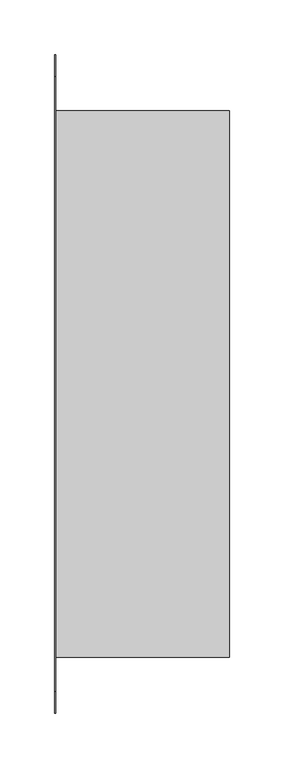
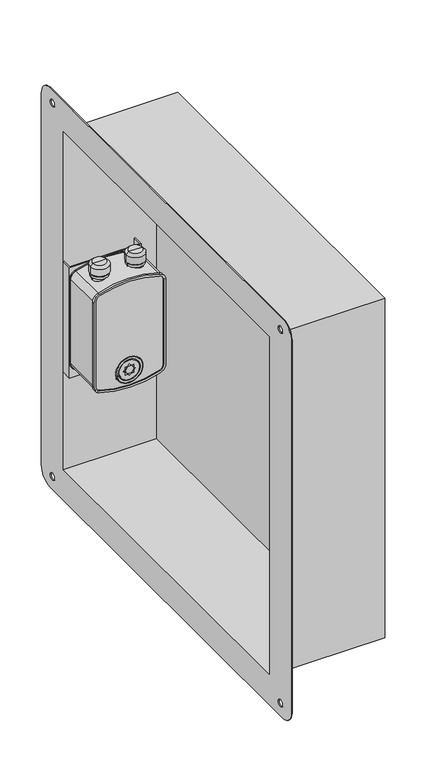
"""IFC4 building model written with IfcOpenShell, lengths in millimetres: damper geometry, СВ_КлапанПротивопожарный_КДМ-2М-3_НЗ_СтеновойПрямоугольный_СВОК : КДМ-3_Привод FS."""

from ifc_helpers import new_model, si_unit, point, frame, frame_2d, origin, place, context, project, spatial, polyline, circle_curve, trimmed, segment, composite_curve, outline, extrude, source, transform, mapped, element, save
from ifc_brep_helpers import plane_surface, cylinder_surface, revolved_surface, advanced_brep


def damper_ea2bbee0(model_context):
    return source(origin(), model_context, "Body", "SolidModel", [
        extrude(outline(polyline([(-78.8298911, 248.8), (-78.8298911, 235.0), (18.8, 235.0), (18.8, 248.8), (20.0, 248.8), (20.0, 233.8), (-80.0298911, 233.8), (-80.0298911, 248.8), (-78.8298911, 248.8)])), frame((0.0, 0.0, -105.0), z_axis=(0.0, 0.0, 1.0), x_axis=(1.0, 0.0, 0.0)), (0.0, 0.0, 1.0), 162.5),
        extrude(outline(composite_curve([segment(polyline([(41.1260091, -80.0298911), (-83.1260091, -80.0298911)]), True, "CONTINUOUS"), segment(trimmed(circle_curve(frame_2d((-83.1260091, -69.0)), 11.0298911), [point((-83.1260091, -80.0298911))], [point((-93.5819866, -72.5115572))], False, "CARTESIAN"), True, "CONTINUOUS"), segment(trimmed(circle_curve(frame_2d((33.0, -30.0)), 133.5298911), [point((-93.5819866, -72.5115572))], [point((-93.5819866, 12.5115572))], False, "CARTESIAN"), True, "CONTINUOUS"), segment(trimmed(circle_curve(frame_2d((-83.1260091, 9.0)), 11.0298911), [point((-93.5819866, 12.5115572))], [point((-83.1260091, 20.0298911))], False, "CARTESIAN"), True, "CONTINUOUS"), segment(polyline([(-83.1260091, 20.0298911), (41.1260091, 20.0298911)]), True, "CONTINUOUS"), segment(trimmed(circle_curve(frame_2d((41.1260091, 9.0)), 11.0298911), [point((41.1260091, 20.0298911))], [point((51.5819866, 12.5115572))], False, "CARTESIAN"), True, "CONTINUOUS"), segment(trimmed(circle_curve(frame_2d((-75.0, -30.0)), 133.5298911), [point((51.5819866, 12.5115572))], [point((51.5819866, -72.5115572))], False, "CARTESIAN"), True, "CONTINUOUS"), segment(trimmed(circle_curve(frame_2d((41.1260091, -69.0)), 11.0298911), [point((51.5819866, -72.5115572))], [point((41.1260091, -80.0298911))], False, "CARTESIAN"), True, "CONTINUOUS")], self_intersect=False), holes=[composite_curve([segment(trimmed(circle_curve(frame_2d((33.0, -30.0)), 132.5), [point((-92.6056834, 12.1836735))], [point((-92.6056834, -72.1836735))], True, "CARTESIAN"), True, "CONTINUOUS"), segment(trimmed(circle_curve(frame_2d((-83.1260091, -69.0)), 10.0), [point((-92.6056834, -72.1836735))], [point((-83.1260091, -79.0))], True, "CARTESIAN"), True, "CONTINUOUS"), segment(polyline([(-83.1260091, -79.0), (41.1260091, -79.0)]), True, "CONTINUOUS"), segment(trimmed(circle_curve(frame_2d((41.1260091, -69.0)), 10.0), [point((41.1260091, -79.0))], [point((50.6056834, -72.1836735))], True, "CARTESIAN"), True, "CONTINUOUS"), segment(trimmed(circle_curve(frame_2d((-75.0, -30.0)), 132.5), [point((50.6056834, -72.1836735))], [point((50.6056834, 12.1836735))], True, "CARTESIAN"), True, "CONTINUOUS"), segment(trimmed(circle_curve(frame_2d((41.1260091, 9.0)), 10.0), [point((50.6056834, 12.1836735))], [point((41.1260091, 19.0))], True, "CARTESIAN"), True, "CONTINUOUS"), segment(polyline([(41.1260091, 19.0), (-83.1260091, 19.0)]), True, "CONTINUOUS"), segment(trimmed(circle_curve(frame_2d((-83.1260091, 9.0)), 10.0), [point((-83.1260091, 19.0))], [point((-92.6056834, 12.1836735))], True, "CARTESIAN"), True, "CONTINUOUS")], self_intersect=False)]), frame((0.0, 231.8, 0.0), z_axis=(0.0, 1.0, 0.0), x_axis=(0.0, 0.0, 1.0)), (0.0, 0.0, 1.0), 2.0),
        advanced_brep(
        [(-72.1836735, 177.8, -92.6056834), (-79.0, 177.8, -83.1260091), (-79.0, 175.8, -83.1260091), (-72.1836735, 175.8, -92.6056834), (-72.5115572, 174.8, -93.5819866), (-80.0298911, 174.8, -83.1260091), (-80.0298911, 177.8, -83.1260091), (-72.5115572, 177.8, -93.5819866), (-71.5469388, 175.8, -90.7097485), (-77.0, 175.8, -83.1260091), (-77.0, 174.8, -83.1260091), (-71.5469388, 174.8, -90.7097485), (12.1836735, 177.8, -92.6056834), (12.1836735, 175.8, -92.6056834), (12.5115572, 174.8, -93.5819866), (12.5115572, 177.8, -93.5819866), (11.5469388, 175.8, -90.7097485), (11.5469388, 174.8, -90.7097485), (19.0, 177.8, -83.1260091), (19.0, 175.8, -83.1260091), (20.0298911, 174.8, -83.1260091), (20.0298911, 177.8, -83.1260091), (17.0, 175.8, -83.1260091), (17.0, 174.8, -83.1260091), (19.0, 175.8, 41.1260091), (19.0, 177.8, 41.1260091), (20.0298911, 177.8, 41.1260091), (20.0298911, 174.8, 41.1260091), (17.0, 174.8, 41.1260091), (17.0, 175.8, 41.1260091), (12.1836735, 177.8, 50.6056834), (12.1836735, 175.8, 50.6056834), (12.5115572, 174.8, 51.5819866), (12.5115572, 177.8, 51.5819866), (11.5469388, 175.8, 48.7097485), (11.5469388, 174.8, 48.7097485), (-72.1836735, 177.8, 50.6056834), (-72.1836735, 175.8, 50.6056834), (-72.5115572, 174.8, 51.5819866), (-72.5115572, 177.8, 51.5819866), (-71.5469388, 175.8, 48.7097485), (-71.5469388, 174.8, 48.7097485), (-79.0, 177.8, 41.1260091), (-79.0, 175.8, 41.1260091), (-80.0298911, 174.8, 41.1260091), (-80.0298911, 177.8, 41.1260091), (-77.0, 175.8, 41.1260091), (-77.0, 174.8, 41.1260091)],
        [
            (0, 1, circle_curve(frame((-69.0, 177.8, -83.1260091), z_axis=(0.0, 1.0, 0.0), x_axis=(-1.0, 0.0, 0.0)), 10.0)),
            (1, 2),
            (2, 3, circle_curve(frame((-69.0, 175.8, -83.1260091), z_axis=(0.0, -1.0, 0.0), x_axis=(-1.0, 0.0, 0.0)), 10.0)),
            (3, 0),
            (4, 5, circle_curve(frame((-69.0, 174.8, -83.1260091), z_axis=(0.0, 1.0, 0.0), x_axis=(-1.0, 0.0, 0.0)), 11.0298911)),
            (5, 6),
            (6, 7, circle_curve(frame((-69.0, 177.8, -83.1260091), z_axis=(0.0, -1.0, 0.0), x_axis=(-1.0, 0.0, 0.0)), 11.0298911)),
            (7, 4),
            (8, 9, circle_curve(frame((-69.0, 175.8, -83.1260091), z_axis=(0.0, 1.0, 0.0), x_axis=(-1.0, 0.0, 0.0)), 8.0)),
            (9, 10),
            (10, 11, circle_curve(frame((-69.0, 174.8, -83.1260091), z_axis=(0.0, -1.0, 0.0), x_axis=(-1.0, 0.0, 0.0)), 8.0)),
            (11, 8),
            (12, 0, circle_curve(frame((-30.0, 177.8, 33.0), z_axis=(0.0, 1.0, 0.0), x_axis=(-0.31836734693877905, 0.0, -0.947967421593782)), 132.5)),
            (3, 13, circle_curve(frame((-30.0, 175.8, 33.0), z_axis=(0.0, -1.0, 0.0), x_axis=(-0.31836734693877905, 0.0, -0.947967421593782)), 132.5)),
            (13, 12),
            (14, 4, circle_curve(frame((-30.0, 174.8, 33.0), z_axis=(0.0, 1.0, 0.0), x_axis=(-0.31836734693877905, 0.0, -0.947967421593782)), 133.5298911)),
            (7, 15, circle_curve(frame((-30.0, 177.8, 33.0), z_axis=(0.0, -1.0, 0.0), x_axis=(-0.31836734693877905, 0.0, -0.947967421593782)), 133.5298911)),
            (15, 14),
            (16, 8, circle_curve(frame((-30.0, 175.8, 33.0), z_axis=(0.0, 1.0, 0.0), x_axis=(-0.31836734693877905, 0.0, -0.947967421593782)), 130.5)),
            (11, 17, circle_curve(frame((-30.0, 174.8, 33.0), z_axis=(0.0, -1.0, 0.0), x_axis=(-0.31836734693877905, 0.0, -0.947967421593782)), 130.5)),
            (17, 16),
            (18, 12, circle_curve(frame((9.0, 177.8, -83.1260091), z_axis=(0.0, 1.0, 0.0), x_axis=(0.3183673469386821, 0.0, -0.9479674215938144)), 10.0)),
            (13, 19, circle_curve(frame((9.0, 175.8, -83.1260091), z_axis=(0.0, -1.0, 0.0), x_axis=(0.3183673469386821, 0.0, -0.9479674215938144)), 10.0)),
            (19, 18),
            (20, 14, circle_curve(frame((9.0, 174.8, -83.1260091), z_axis=(0.0, 1.0, 0.0), x_axis=(0.3183673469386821, 0.0, -0.9479674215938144)), 11.0298911)),
            (15, 21, circle_curve(frame((9.0, 177.8, -83.1260091), z_axis=(0.0, -1.0, 0.0), x_axis=(0.3183673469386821, 0.0, -0.9479674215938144)), 11.0298911)),
            (21, 20),
            (22, 16, circle_curve(frame((9.0, 175.8, -83.1260091), z_axis=(0.0, 1.0, 0.0), x_axis=(0.3183673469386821, 0.0, -0.9479674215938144)), 8.0)),
            (17, 23, circle_curve(frame((9.0, 174.8, -83.1260091), z_axis=(0.0, -1.0, 0.0), x_axis=(0.3183673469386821, 0.0, -0.9479674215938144)), 8.0)),
            (23, 22),
            (19, 24),
            (24, 25),
            (25, 18),
            (21, 26),
            (26, 27),
            (27, 20),
            (23, 28),
            (28, 29),
            (29, 22),
            (30, 25, circle_curve(frame((9.0, 177.8, 41.1260091), z_axis=(0.0, 1.0, 0.0), x_axis=(1.0, 0.0, 0.0)), 10.0)),
            (24, 31, circle_curve(frame((9.0, 175.8, 41.1260091), z_axis=(0.0, -1.0, 0.0), x_axis=(1.0, 0.0, 0.0)), 10.0)),
            (31, 30),
            (32, 27, circle_curve(frame((9.0, 174.8, 41.1260091), z_axis=(0.0, 1.0, 0.0), x_axis=(1.0, 0.0, 0.0)), 11.0298911)),
            (26, 33, circle_curve(frame((9.0, 177.8, 41.1260091), z_axis=(0.0, -1.0, 0.0), x_axis=(1.0, 0.0, 0.0)), 11.0298911)),
            (33, 32),
            (34, 29, circle_curve(frame((9.0, 175.8, 41.1260091), z_axis=(0.0, 1.0, 0.0), x_axis=(1.0, 0.0, 0.0)), 8.0)),
            (28, 35, circle_curve(frame((9.0, 174.8, 41.1260091), z_axis=(0.0, -1.0, 0.0), x_axis=(1.0, 0.0, 0.0)), 8.0)),
            (35, 34),
            (36, 30, circle_curve(frame((-30.0, 177.8, -75.0), z_axis=(0.0, 1.0, 0.0), x_axis=(0.3183673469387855, 0.0, 0.9479674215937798)), 132.5)),
            (31, 37, circle_curve(frame((-30.0, 175.8, -75.0), z_axis=(0.0, -1.0, 0.0), x_axis=(0.3183673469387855, 0.0, 0.9479674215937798)), 132.5)),
            (37, 36),
            (38, 32, circle_curve(frame((-30.0, 174.8, -75.0), z_axis=(0.0, 1.0, 0.0), x_axis=(0.3183673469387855, 0.0, 0.9479674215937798)), 133.5298911)),
            (33, 39, circle_curve(frame((-30.0, 177.8, -75.0), z_axis=(0.0, -1.0, 0.0), x_axis=(0.3183673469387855, 0.0, 0.9479674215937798)), 133.5298911)),
            (39, 38),
            (40, 34, circle_curve(frame((-30.0, 175.8, -75.0), z_axis=(0.0, 1.0, 0.0), x_axis=(0.3183673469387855, 0.0, 0.9479674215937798)), 130.5)),
            (35, 41, circle_curve(frame((-30.0, 174.8, -75.0), z_axis=(0.0, -1.0, 0.0), x_axis=(0.3183673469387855, 0.0, 0.9479674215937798)), 130.5)),
            (41, 40),
            (42, 36, circle_curve(frame((-69.0, 177.8, 41.1260091), z_axis=(0.0, 1.0, 0.0), x_axis=(-0.3183673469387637, 0.0, 0.947967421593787)), 10.0)),
            (37, 43, circle_curve(frame((-69.0, 175.8, 41.1260091), z_axis=(0.0, -1.0, 0.0), x_axis=(-0.3183673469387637, 0.0, 0.947967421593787)), 10.0)),
            (43, 42),
            (44, 38, circle_curve(frame((-69.0, 174.8, 41.1260091), z_axis=(0.0, 1.0, 0.0), x_axis=(-0.3183673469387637, 0.0, 0.947967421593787)), 11.0298911)),
            (39, 45, circle_curve(frame((-69.0, 177.8, 41.1260091), z_axis=(0.0, -1.0, 0.0), x_axis=(-0.3183673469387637, 0.0, 0.947967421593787)), 11.0298911)),
            (45, 44),
            (46, 40, circle_curve(frame((-69.0, 175.8, 41.1260091), z_axis=(0.0, 1.0, 0.0), x_axis=(-0.3183673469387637, 0.0, 0.947967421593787)), 8.0)),
            (41, 47, circle_curve(frame((-69.0, 174.8, 41.1260091), z_axis=(0.0, -1.0, 0.0), x_axis=(-0.3183673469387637, 0.0, 0.947967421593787)), 8.0)),
            (47, 46),
            (2, 43),
            (46, 9),
            (1, 42),
            (6, 45),
            (5, 44),
            (10, 47),
        ],
        [
            revolved_surface(polyline([(-79.0, 175.8, -83.1260091), (-79.0, 177.8, -83.1260091)]), (-69.0, 175.8, -83.1260091), (0.0, -1.0, 0.0)),
            cylinder_surface(frame((-69.0, 175.8, -83.1260091), z_axis=(0.0, -1.0, 0.0), x_axis=(-1.0, 0.0, 0.0)), 11.0298911),
            revolved_surface(polyline([(-77.0, 174.8, -83.1260091), (-77.0, 175.8, -83.1260091)]), (-69.0, 175.8, -83.1260091), (0.0, -1.0, 0.0)),
            revolved_surface(polyline([(-72.18367346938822, 175.8, -92.60568336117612), (-72.18367346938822, 177.8, -92.60568336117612)]), (-30.0, 175.8, 33.0), (0.0, -1.0, 0.0)),
            cylinder_surface(frame((-30.0, 175.8, 33.0), z_axis=(0.0, -1.0, 0.0), x_axis=(-0.31836734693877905, 0.0, -0.947967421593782)), 133.5298911),
            revolved_surface(polyline([(-71.54693877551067, 174.8, -90.70974851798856), (-71.54693877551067, 175.8, -90.70974851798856)]), (-30.0, 175.8, 33.0), (0.0, -1.0, 0.0)),
            revolved_surface(polyline([(12.183673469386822, 175.8, -92.60568331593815), (12.183673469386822, 177.8, -92.60568331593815)]), (9.0, 175.8, -83.1260091), (0.0, -1.0, 0.0)),
            cylinder_surface(frame((9.0, 175.8, -83.1260091), z_axis=(0.0, -1.0, 0.0), x_axis=(0.3183673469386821, 0.0, -0.9479674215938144)), 11.0298911),
            revolved_surface(polyline([(11.546938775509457, 174.8, -90.70974847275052), (11.546938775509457, 175.8, -90.70974847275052)]), (9.0, 175.8, -83.1260091), (0.0, -1.0, 0.0)),
            plane_surface(frame((19.0, 175.8, -83.1260091), z_axis=(-1.0, 0.0, 0.0), x_axis=(0.0, 0.0, 1.0))),
            plane_surface(frame((20.0298911, 177.8, -83.1260091), z_axis=(1.0, 0.0, 0.0), x_axis=(0.0, 0.0, 1.0))),
            plane_surface(frame((17.0, 174.8, -83.1260091), z_axis=(-1.0, 0.0, 0.0), x_axis=(0.0, 0.0, 1.0))),
            revolved_surface(polyline([(19.0, 175.8, 41.1260091), (19.0, 177.8, 41.1260091)]), (9.0, 175.8, 41.1260091), (0.0, -1.0, 0.0)),
            cylinder_surface(frame((9.0, 175.8, 41.1260091), z_axis=(0.0, -1.0, 0.0), x_axis=(1.0, 0.0, 0.0)), 11.0298911),
            revolved_surface(polyline([(17.0, 174.8, 41.1260091), (17.0, 175.8, 41.1260091)]), (9.0, 175.8, 41.1260091), (0.0, -1.0, 0.0)),
            revolved_surface(polyline([(12.183673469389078, 175.8, 50.60568336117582), (12.183673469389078, 177.8, 50.60568336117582)]), (-30.0, 175.8, -75.0), (0.0, -1.0, 0.0)),
            cylinder_surface(frame((-30.0, 175.8, -75.0), z_axis=(0.0, -1.0, 0.0), x_axis=(0.3183673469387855, 0.0, 0.9479674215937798)), 133.5298911),
            revolved_surface(polyline([(11.546938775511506, 174.8, 48.70974851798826), (11.546938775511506, 175.8, 48.70974851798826)]), (-30.0, 175.8, -75.0), (0.0, -1.0, 0.0)),
            revolved_surface(polyline([(-72.18367346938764, 175.8, 50.60568331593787), (-72.18367346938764, 177.8, 50.60568331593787)]), (-69.0, 175.8, 41.1260091), (0.0, -1.0, 0.0)),
            cylinder_surface(frame((-69.0, 175.8, 41.1260091), z_axis=(0.0, -1.0, 0.0), x_axis=(-0.3183673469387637, 0.0, 0.947967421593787)), 11.0298911),
            revolved_surface(polyline([(-71.54693877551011, 174.8, 48.70974847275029), (-71.54693877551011, 175.8, 48.70974847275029)]), (-69.0, 175.8, 41.1260091), (0.0, -1.0, 0.0)),
            plane_surface(frame((-77.0, 175.8, 41.1260091), z_axis=(0.0, 1.0, 0.0), x_axis=(0.0, 0.0, -1.0))),
            plane_surface(frame((-79.0, 175.8, 41.1260091), z_axis=(1.0, 0.0, 0.0), x_axis=(0.0, 0.0, -1.0))),
            plane_surface(frame((-79.0, 177.8, 41.1260091), z_axis=(0.0, 1.0, 0.0), x_axis=(0.0, 0.0, -1.0))),
            plane_surface(frame((-80.0298911, 177.8, 41.1260091), z_axis=(-1.0, 0.0, 0.0), x_axis=(0.0, 0.0, -1.0))),
            plane_surface(frame((-80.0298911, 174.8, 41.1260091), z_axis=(0.0, -1.0, 0.0), x_axis=(0.0, 0.0, -1.0))),
            plane_surface(frame((-77.0, 174.8, 41.1260091), z_axis=(1.0, 0.0, 0.0), x_axis=(0.0, 0.0, -1.0))),
        ],
        [
            (0, [[1, 2, 3, 4]]),
            (1, [[5, 6, 7, 8]]),
            (2, [[9, 10, 11, 12]]),
            (3, [[13, -4, 14, 15]]),
            (4, [[16, -8, 17, 18]]),
            (5, [[19, -12, 20, 21]]),
            (6, [[22, -15, 23, 24]]),
            (7, [[25, -18, 26, 27]]),
            (8, [[28, -21, 29, 30]]),
            (9, [[-24, 31, 32, 33]]),
            (10, [[-27, 34, 35, 36]]),
            (11, [[-30, 37, 38, 39]]),
            (12, [[40, -32, 41, 42]]),
            (13, [[43, -35, 44, 45]]),
            (14, [[46, -38, 47, 48]]),
            (15, [[49, -42, 50, 51]]),
            (16, [[52, -45, 53, 54]]),
            (17, [[55, -48, 56, 57]]),
            (18, [[58, -51, 59, 60]]),
            (19, [[61, -54, 62, 63]]),
            (20, [[64, -57, 65, 66]]),
            (21, [[67, -59, -50, -41, -31, -23, -14, -3], [-55, -64, 68, -9, -19, -28, -39, -46]]),
            (22, [[-60, -67, -2, 69]]),
            (23, [[70, -62, -53, -44, -34, -26, -17, -7], [-49, -58, -69, -1, -13, -22, -33, -40]]),
            (24, [[-63, -70, -6, 71]]),
            (25, [[-52, -61, -71, -5, -16, -25, -36, -43], [72, -65, -56, -47, -37, -29, -20, -11]]),
            (26, [[-66, -72, -10, -68]]),
        ],
    ),
        advanced_brep(
        [(-45.0, 204.8, 57.5), (-65.0, 204.8, 57.5), (-66.9771465, 204.8, 57.5), (-43.0228535, 204.8, 57.5), (-66.9771465, 204.8, 60.4915282), (-43.0228535, 204.8, 60.4915282), (-62.9771465, 204.8, 60.4915282), (-47.0228535, 204.8, 60.4915282), (-62.9771465, 204.8, 62.4754985), (-47.0228535, 204.8, 62.4754985), (-67.9771465, 204.8, 62.4754985), (-42.0228535, 204.8, 62.4754985), (-67.9771465, 204.8, 72.4754985), (-42.0228535, 204.8, 72.4754985), (-64.4416126, 204.8, 76.0110324), (-45.5583874, 204.8, 76.0110324), (-55.0, 204.8, 76.0110324), (-55.0, 204.8, 45.900028), (-65.0, 204.8, 45.900028), (-45.0, 204.8, 45.900028)],
        [
            (0, 1, circle_curve(frame((-55.0, 204.8, 57.5), z_axis=(0.0, 0.0, 1.0), x_axis=(-1.0, 0.0, 0.0)), 10.0)),
            (1, 2),
            (2, 3, circle_curve(frame((-55.0, 204.8, 57.5), z_axis=(0.0, 0.0, -1.0), x_axis=(-1.0, 0.0, 0.0)), 11.9771465)),
            (3, 0),
            (1, 0, circle_curve(frame((-55.0, 204.8, 57.5), z_axis=(0.0, 0.0, 1.0), x_axis=(-1.0, 0.0, 0.0)), 10.0)),
            (3, 2, circle_curve(frame((-55.0, 204.8, 57.5), z_axis=(0.0, 0.0, -1.0), x_axis=(-1.0, 0.0, 0.0)), 11.9771465)),
            (2, 4),
            (4, 5, circle_curve(frame((-55.0, 204.8, 60.4915282), z_axis=(0.0, 0.0, -1.0), x_axis=(-1.0, 0.0, 0.0)), 11.9771465)),
            (5, 3),
            (5, 4, circle_curve(frame((-55.0, 204.8, 60.4915282), z_axis=(0.0, 0.0, -1.0), x_axis=(-1.0, 0.0, 0.0)), 11.9771465)),
            (4, 6),
            (6, 7, circle_curve(frame((-55.0, 204.8, 60.4915282), z_axis=(0.0, 0.0, -1.0), x_axis=(-1.0, 0.0, 0.0)), 7.9771465)),
            (7, 5),
            (7, 6, circle_curve(frame((-55.0, 204.8, 60.4915282), z_axis=(0.0, 0.0, -1.0), x_axis=(-1.0, 0.0, 0.0)), 7.9771465)),
            (6, 8),
            (8, 9, circle_curve(frame((-55.0, 204.8, 62.4754985), z_axis=(0.0, 0.0, -1.0), x_axis=(-1.0, 0.0, 0.0)), 7.9771465)),
            (9, 7),
            (9, 8, circle_curve(frame((-55.0, 204.8, 62.4754985), z_axis=(0.0, 0.0, -1.0), x_axis=(-1.0, 0.0, 0.0)), 7.9771465)),
            (8, 10),
            (10, 11, circle_curve(frame((-55.0, 204.8, 62.4754985), z_axis=(0.0, 0.0, -1.0), x_axis=(-1.0, 0.0, 0.0)), 12.9771465)),
            (11, 9),
            (11, 10, circle_curve(frame((-55.0, 204.8, 62.4754985), z_axis=(0.0, 0.0, -1.0), x_axis=(-1.0, 0.0, 0.0)), 12.9771465)),
            (10, 12),
            (12, 13, circle_curve(frame((-55.0, 204.8, 72.4754985), z_axis=(0.0, 0.0, -1.0), x_axis=(-1.0, 0.0, 0.0)), 12.9771465)),
            (13, 11),
            (13, 12, circle_curve(frame((-55.0, 204.8, 72.4754985), z_axis=(0.0, 0.0, -1.0), x_axis=(-1.0, 0.0, 0.0)), 12.9771465)),
            (12, 14),
            (14, 15, circle_curve(frame((-55.0, 204.8, 76.0110324), z_axis=(0.0, 0.0, -1.0), x_axis=(-1.0, 0.0, 0.0)), 9.4416126)),
            (15, 13),
            (15, 14, circle_curve(frame((-55.0, 204.8, 76.0110324), z_axis=(0.0, 0.0, -1.0), x_axis=(-1.0, 0.0, 0.0)), 9.4416126)),
            (14, 16),
            (16, 15),
            (17, 18),
            (18, 19, circle_curve(frame((-55.0, 204.8, 45.900028), z_axis=(0.0, 0.0, -1.0), x_axis=(-1.0, 0.0, 0.0)), 10.0)),
            (19, 17),
            (19, 18, circle_curve(frame((-55.0, 204.8, 45.900028), z_axis=(0.0, 0.0, -1.0), x_axis=(-1.0, 0.0, 0.0)), 10.0)),
            (18, 1),
            (0, 19),
        ],
        [
            plane_surface(frame((-55.0, 204.8, 57.5), z_axis=(0.0, 0.0, -1.0), x_axis=(-1.0, 0.0, 0.0))),
            cylinder_surface(frame((-55.0, 204.8, 386.314844), z_axis=(0.0, 0.0, -1.0), x_axis=(-1.0, 0.0, 0.0)), 11.9771465),
            plane_surface(frame((-55.0, 204.8, 60.4915282), z_axis=(0.0, 0.0, 1.0), x_axis=(-1.0, 0.0, 0.0))),
            cylinder_surface(frame((-55.0, 204.8, 386.314844), z_axis=(0.0, 0.0, -1.0), x_axis=(-1.0, 0.0, 0.0)), 7.9771465),
            plane_surface(frame((-55.0, 204.8, 62.4754985), z_axis=(0.0, 0.0, -1.0), x_axis=(-1.0, 0.0, 0.0))),
            cylinder_surface(frame((-55.0, 204.8, 386.314844), z_axis=(0.0, 0.0, -1.0), x_axis=(-1.0, 0.0, 0.0)), 12.9771465),
            revolved_surface(polyline([(-64.4416126, 204.8, 76.0110324), (-67.9771465, 204.8, 72.4754985)]), (-55.0, 204.8, 386.314844), (0.0, 0.0, -1.0)),
            plane_surface(frame((-55.0, 204.8, 76.0110324), z_axis=(0.0, 0.0, 1.0), x_axis=(-1.0, 0.0, 0.0))),
            plane_surface(frame((-55.0, 204.8, 45.900028), z_axis=(0.0, 0.0, -1.0), x_axis=(-1.0, 0.0, 0.0))),
            cylinder_surface(frame((-55.0, 204.8, 386.314844), z_axis=(0.0, 0.0, -1.0), x_axis=(-1.0, 0.0, 0.0)), 10.0),
        ],
        [
            (0, [[1, 2, 3, 4]]),
            (0, [[5, -4, 6, -2]]),
            (1, [[-3, 7, 8, 9]]),
            (1, [[-6, -9, 10, -7]]),
            (2, [[-8, 11, 12, 13]]),
            (2, [[-10, -13, 14, -11]]),
            (3, [[-12, 15, 16, 17]]),
            (3, [[-14, -17, 18, -15]]),
            (4, [[-16, 19, 20, 21]]),
            (4, [[-18, -21, 22, -19]]),
            (5, [[-20, 23, 24, 25]]),
            (5, [[-22, -25, 26, -23]]),
            (6, [[-24, 27, 28, 29]]),
            (6, [[-26, -29, 30, -27]]),
            (7, [[-28, 31, 32]]),
            (7, [[-30, -32, -31]]),
            (8, [[33, 34, 35]]),
            (8, [[-35, 36, -33]]),
            (9, [[-34, 37, -1, 38]]),
            (9, [[-36, -38, -5, -37]]),
        ],
    ),
        advanced_brep(
        [(-16.9771465, 204.8, 57.5), (6.9771465, 204.8, 57.5), (5.0, 204.8, 57.5), (-15.0, 204.8, 57.5), (-16.9771465, 204.8, 60.4915282), (6.9771465, 204.8, 60.4915282), (-12.9771465, 204.8, 60.4915282), (2.9771465, 204.8, 60.4915282), (-12.9771465, 204.8, 62.4754985), (2.9771465, 204.8, 62.4754985), (-17.9771465, 204.8, 62.4754985), (7.9771465, 204.8, 62.4754985), (-17.9771465, 204.8, 72.4754985), (7.9771465, 204.8, 72.4754985), (-14.4416126, 204.8, 76.0110324), (4.4416126, 204.8, 76.0110324), (-5.0, 204.8, 76.0110324), (-15.0, 204.8, 45.900028), (5.0, 204.8, 45.900028), (-5.0, 204.8, 45.900028)],
        [
            (0, 1, circle_curve(frame((-5.0, 204.8, 57.5), z_axis=(0.0, 0.0, -1.0), x_axis=(1.0, 0.0, 0.0)), 11.9771465)),
            (1, 2),
            (2, 3, circle_curve(frame((-5.0, 204.8, 57.5), z_axis=(0.0, 0.0, 1.0), x_axis=(1.0, 0.0, 0.0)), 10.0)),
            (3, 0),
            (1, 0, circle_curve(frame((-5.0, 204.8, 57.5), z_axis=(0.0, 0.0, -1.0), x_axis=(1.0, 0.0, 0.0)), 11.9771465)),
            (3, 2, circle_curve(frame((-5.0, 204.8, 57.5), z_axis=(0.0, 0.0, 1.0), x_axis=(1.0, 0.0, 0.0)), 10.0)),
            (4, 5, circle_curve(frame((-5.0, 204.8, 60.4915282), z_axis=(0.0, 0.0, -1.0), x_axis=(1.0, 0.0, 0.0)), 11.9771465)),
            (5, 1),
            (0, 4),
            (5, 4, circle_curve(frame((-5.0, 204.8, 60.4915282), z_axis=(0.0, 0.0, -1.0), x_axis=(1.0, 0.0, 0.0)), 11.9771465)),
            (6, 7, circle_curve(frame((-5.0, 204.8, 60.4915282), z_axis=(0.0, 0.0, -1.0), x_axis=(1.0, 0.0, 0.0)), 7.9771465)),
            (7, 5),
            (4, 6),
            (7, 6, circle_curve(frame((-5.0, 204.8, 60.4915282), z_axis=(0.0, 0.0, -1.0), x_axis=(1.0, 0.0, 0.0)), 7.9771465)),
            (8, 9, circle_curve(frame((-5.0, 204.8, 62.4754985), z_axis=(0.0, 0.0, -1.0), x_axis=(1.0, 0.0, 0.0)), 7.9771465)),
            (9, 7),
            (6, 8),
            (9, 8, circle_curve(frame((-5.0, 204.8, 62.4754985), z_axis=(0.0, 0.0, -1.0), x_axis=(1.0, 0.0, 0.0)), 7.9771465)),
            (10, 11, circle_curve(frame((-5.0, 204.8, 62.4754985), z_axis=(0.0, 0.0, -1.0), x_axis=(1.0, 0.0, 0.0)), 12.9771465)),
            (11, 9),
            (8, 10),
            (11, 10, circle_curve(frame((-5.0, 204.8, 62.4754985), z_axis=(0.0, 0.0, -1.0), x_axis=(1.0, 0.0, 0.0)), 12.9771465)),
            (12, 13, circle_curve(frame((-5.0, 204.8, 72.4754985), z_axis=(0.0, 0.0, -1.0), x_axis=(1.0, 0.0, 0.0)), 12.9771465)),
            (13, 11),
            (10, 12),
            (13, 12, circle_curve(frame((-5.0, 204.8, 72.4754985), z_axis=(0.0, 0.0, -1.0), x_axis=(1.0, 0.0, 0.0)), 12.9771465)),
            (14, 15, circle_curve(frame((-5.0, 204.8, 76.0110324), z_axis=(0.0, 0.0, -1.0), x_axis=(1.0, 0.0, 0.0)), 9.4416126)),
            (15, 13),
            (12, 14),
            (15, 14, circle_curve(frame((-5.0, 204.8, 76.0110324), z_axis=(0.0, 0.0, -1.0), x_axis=(1.0, 0.0, 0.0)), 9.4416126)),
            (16, 15),
            (14, 16),
            (17, 18, circle_curve(frame((-5.0, 204.8, 45.900028), z_axis=(0.0, 0.0, -1.0), x_axis=(1.0, 0.0, 0.0)), 10.0)),
            (18, 19),
            (19, 17),
            (18, 17, circle_curve(frame((-5.0, 204.8, 45.900028), z_axis=(0.0, 0.0, -1.0), x_axis=(1.0, 0.0, 0.0)), 10.0)),
            (2, 18),
            (17, 3),
        ],
        [
            plane_surface(frame((-5.0, 204.8, 57.5), z_axis=(0.0, 0.0, -1.0), x_axis=(1.0, 0.0, 0.0))),
            cylinder_surface(frame((-5.0, 204.8, 386.314844), z_axis=(0.0, 0.0, 1.0), x_axis=(1.0, 0.0, 0.0)), 11.9771465),
            plane_surface(frame((-5.0, 204.8, 60.4915282), z_axis=(0.0, 0.0, 1.0), x_axis=(1.0, 0.0, 0.0))),
            cylinder_surface(frame((-5.0, 204.8, 386.314844), z_axis=(0.0, 0.0, 1.0), x_axis=(1.0, 0.0, 0.0)), 7.9771465),
            plane_surface(frame((-5.0, 204.8, 62.4754985), z_axis=(0.0, 0.0, -1.0), x_axis=(1.0, 0.0, 0.0))),
            cylinder_surface(frame((-5.0, 204.8, 386.314844), z_axis=(0.0, 0.0, 1.0), x_axis=(1.0, 0.0, 0.0)), 12.9771465),
            revolved_surface(polyline([(7.9771465, 204.8, 72.4754985), (4.4416126, 204.8, 76.0110324)]), (-5.0, 204.8, 386.314844), (0.0, 0.0, 1.0)),
            plane_surface(frame((-5.0, 204.8, 76.0110324), z_axis=(0.0, 0.0, 1.0), x_axis=(1.0, 0.0, 0.0))),
            plane_surface(frame((-5.0, 204.8, 45.900028), z_axis=(0.0, 0.0, -1.0), x_axis=(1.0, 0.0, 0.0))),
            cylinder_surface(frame((-5.0, 204.8, 386.314844), z_axis=(0.0, 0.0, 1.0), x_axis=(1.0, 0.0, 0.0)), 10.0),
        ],
        [
            (0, [[1, 2, 3, 4]]),
            (0, [[5, -4, 6, -2]]),
            (1, [[7, 8, -1, 9]]),
            (1, [[10, -9, -5, -8]]),
            (2, [[11, 12, -7, 13]]),
            (2, [[14, -13, -10, -12]]),
            (3, [[15, 16, -11, 17]]),
            (3, [[18, -17, -14, -16]]),
            (4, [[19, 20, -15, 21]]),
            (4, [[22, -21, -18, -20]]),
            (5, [[23, 24, -19, 25]]),
            (5, [[26, -25, -22, -24]]),
            (6, [[27, 28, -23, 29]]),
            (6, [[30, -29, -26, -28]]),
            (7, [[31, -27, 32]]),
            (7, [[-32, -30, -31]]),
            (8, [[33, 34, 35]]),
            (8, [[36, -35, -34]]),
            (9, [[-3, 37, -33, 38]]),
            (9, [[-6, -38, -36, -37]]),
        ],
    ),
        extrude(outline(polyline([(-69.8167305, -27.0074379), (-69.8167305, -32.9925621), (-75.0, -35.9851241), (-80.1832695, -32.9925621), (-80.1832695, -27.0074379), (-75.0, -24.0148759), (-69.8167305, -27.0074379)])), frame((0.0, 175.8, 0.0), z_axis=(0.0, 1.0, 0.0), x_axis=(0.0, 0.0, 1.0)), (0.0, 0.0, 1.0), 73.0),
        advanced_brep(
        [(-72.1836735, 175.8, 50.6056834), (-79.0, 175.8, 41.1260091), (-79.0, 175.8, -83.1260091), (-72.1836735, 175.8, -92.6056834), (12.1836735, 175.8, -92.6056834), (19.0, 175.8, -83.1260091), (19.0, 175.8, 41.1260091), (12.1836735, 175.8, 50.6056834), (-30.0, 175.8, -56.0), (-30.0, 175.8, -94.0), (-30.0, 175.8, -57.0), (-30.0, 175.8, -93.0), (-30.0, 175.8, -60.0), (-30.0, 175.8, -90.0), (-30.0, 175.8, -61.0), (-30.0, 175.8, -89.0), (-35.9954463, 175.8, -80.9954463), (-35.9954463, 175.8, -77.4898351), (-38.4852814, 175.8, -75.0), (-35.9954463, 175.8, -72.5101649), (-35.9954463, 175.8, -69.0045537), (-32.4898351, 175.8, -69.0045537), (-30.0, 175.8, -66.5147186), (-27.5101649, 175.8, -69.0045537), (-24.0045537, 175.8, -69.0045537), (-24.0045537, 175.8, -72.5101649), (-21.5147186, 175.8, -75.0), (-24.0045537, 175.8, -77.4898351), (-24.0045537, 175.8, -80.9954463), (-27.5101649, 175.8, -80.9954463), (-30.0, 175.8, -83.4852814), (-32.4898351, 175.8, -80.9954463), (-72.1836735, 233.8, 50.6056834), (12.1836735, 233.8, 50.6056834), (19.0, 233.8, 41.1260091), (19.0, 233.8, -83.1260091), (12.1836735, 233.8, -92.6056834), (-72.1836735, 233.8, -92.6056834), (-79.0, 233.8, -83.1260091), (-79.0, 233.8, 41.1260091), (-30.0, 180.8, -94.0), (-30.0, 180.8, -56.0), (-30.0, 180.8, -93.0), (-30.0, 180.8, -57.0), (-30.0, 180.8, -90.0), (-30.0, 180.8, -60.0), (-30.0, 180.8, -89.0), (-30.0, 180.8, -61.0), (-35.9954463, 180.8, -77.4898351), (-35.9954463, 180.8, -80.9954463), (-32.4898351, 180.8, -80.9954463), (-30.0, 180.8, -83.4852814), (-27.5101649, 180.8, -80.9954463), (-24.0045537, 180.8, -80.9954463), (-24.0045537, 180.8, -77.4898351), (-21.5147186, 180.8, -75.0), (-24.0045537, 180.8, -72.5101649), (-24.0045537, 180.8, -69.0045537), (-27.5101649, 180.8, -69.0045537), (-30.0, 180.8, -66.5147186), (-32.4898351, 180.8, -69.0045537), (-35.9954463, 180.8, -69.0045537), (-35.9954463, 180.8, -72.5101649), (-38.4852814, 180.8, -75.0)],
        [
            (0, 1, circle_curve(frame((-69.0, 175.8, 41.1260091), z_axis=(0.0, -1.0, 0.0), x_axis=(0.0, 0.0, 1.0)), 10.0)),
            (1, 2),
            (2, 3, circle_curve(frame((-69.0, 175.8, -83.1260091), z_axis=(0.0, -1.0, 0.0), x_axis=(0.0, 0.0, 1.0)), 10.0)),
            (3, 4, circle_curve(frame((-30.0, 175.8, 33.0), z_axis=(0.0, -1.0, 0.0), x_axis=(0.0, 0.0, 1.0)), 132.5)),
            (4, 5, circle_curve(frame((9.0, 175.8, -83.1260091), z_axis=(0.0, -1.0, 0.0), x_axis=(0.0, 0.0, 1.0)), 10.0)),
            (5, 6),
            (6, 7, circle_curve(frame((9.0, 175.8, 41.1260091), z_axis=(0.0, -1.0, 0.0), x_axis=(0.0, 0.0, 1.0)), 10.0)),
            (7, 0, circle_curve(frame((-30.0, 175.8, -75.0), z_axis=(0.0, -1.0, 0.0), x_axis=(0.0, 0.0, 1.0)), 132.5)),
            (8, 9, circle_curve(frame((-30.0, 175.8, -75.0), z_axis=(0.0, 1.0, 0.0), x_axis=(0.0, 0.0, 1.0)), 19.0)),
            (9, 8, circle_curve(frame((-30.0, 175.8, -75.0), z_axis=(0.0, 1.0, 0.0), x_axis=(0.0, 0.0, 1.0)), 19.0)),
            (10, 11, circle_curve(frame((-30.0, 175.8, -75.0), z_axis=(0.0, -1.0, 0.0), x_axis=(0.0, 0.0, 1.0)), 18.0)),
            (11, 10, circle_curve(frame((-30.0, 175.8, -75.0), z_axis=(0.0, -1.0, 0.0), x_axis=(0.0, 0.0, 1.0)), 18.0)),
            (12, 13, circle_curve(frame((-30.0, 175.8, -75.0), z_axis=(0.0, 1.0, 0.0), x_axis=(0.0, 0.0, 1.0)), 15.0)),
            (13, 12, circle_curve(frame((-30.0, 175.8, -75.0), z_axis=(0.0, 1.0, 0.0), x_axis=(0.0, 0.0, 1.0)), 15.0)),
            (14, 15, circle_curve(frame((-30.0, 175.8, -75.0), z_axis=(0.0, -1.0, 0.0), x_axis=(0.0, 0.0, 1.0)), 14.0)),
            (15, 14, circle_curve(frame((-30.0, 175.8, -75.0), z_axis=(0.0, -1.0, 0.0), x_axis=(0.0, 0.0, 1.0)), 14.0)),
            (16, 17),
            (17, 18),
            (18, 19),
            (19, 20),
            (20, 21),
            (21, 22),
            (22, 23),
            (23, 24),
            (24, 25),
            (25, 26),
            (26, 27),
            (27, 28),
            (28, 29),
            (29, 30),
            (30, 31),
            (31, 16),
            (32, 33, circle_curve(frame((-30.0, 233.8, -75.0), z_axis=(0.0, 1.0, 0.0), x_axis=(0.0, 0.0, 1.0)), 132.5)),
            (33, 34, circle_curve(frame((9.0, 233.8, 41.1260091), z_axis=(0.0, 1.0, 0.0), x_axis=(0.0, 0.0, 1.0)), 10.0)),
            (34, 35),
            (35, 36, circle_curve(frame((9.0, 233.8, -83.1260091), z_axis=(0.0, 1.0, 0.0), x_axis=(0.0, 0.0, 1.0)), 10.0)),
            (36, 37, circle_curve(frame((-30.0, 233.8, 33.0), z_axis=(0.0, 1.0, 0.0), x_axis=(0.0, 0.0, 1.0)), 132.5)),
            (37, 38, circle_curve(frame((-69.0, 233.8, -83.1260091), z_axis=(0.0, 1.0, 0.0), x_axis=(0.0, 0.0, 1.0)), 10.0)),
            (38, 39),
            (39, 32, circle_curve(frame((-69.0, 233.8, 41.1260091), z_axis=(0.0, 1.0, 0.0), x_axis=(0.0, 0.0, 1.0)), 10.0)),
            (0, 32),
            (39, 1),
            (38, 2),
            (37, 3),
            (36, 4),
            (35, 5),
            (34, 6),
            (33, 7),
            (40, 41, circle_curve(frame((-30.0, 180.8, -75.0), z_axis=(0.0, -1.0, 0.0), x_axis=(0.0, 0.0, 1.0)), 19.0)),
            (41, 40, circle_curve(frame((-30.0, 180.8, -75.0), z_axis=(0.0, -1.0, 0.0), x_axis=(0.0, 0.0, 1.0)), 19.0)),
            (42, 43, circle_curve(frame((-30.0, 180.8, -75.0), z_axis=(0.0, 1.0, 0.0), x_axis=(0.0, 0.0, 1.0)), 18.0)),
            (43, 42, circle_curve(frame((-30.0, 180.8, -75.0), z_axis=(0.0, 1.0, 0.0), x_axis=(0.0, 0.0, 1.0)), 18.0)),
            (44, 45, circle_curve(frame((-30.0, 180.8, -75.0), z_axis=(0.0, -1.0, 0.0), x_axis=(0.0, 0.0, 1.0)), 15.0)),
            (45, 44, circle_curve(frame((-30.0, 180.8, -75.0), z_axis=(0.0, -1.0, 0.0), x_axis=(0.0, 0.0, 1.0)), 15.0)),
            (46, 47, circle_curve(frame((-30.0, 180.8, -75.0), z_axis=(0.0, 1.0, 0.0), x_axis=(0.0, 0.0, 1.0)), 14.0)),
            (47, 46, circle_curve(frame((-30.0, 180.8, -75.0), z_axis=(0.0, 1.0, 0.0), x_axis=(0.0, 0.0, 1.0)), 14.0)),
            (48, 49),
            (49, 50),
            (50, 51),
            (51, 52),
            (52, 53),
            (53, 54),
            (54, 55),
            (55, 56),
            (56, 57),
            (57, 58),
            (58, 59),
            (59, 60),
            (60, 61),
            (61, 62),
            (62, 63),
            (63, 48),
            (40, 9),
            (8, 41),
            (42, 11),
            (10, 43),
            (44, 13),
            (12, 45),
            (46, 15),
            (14, 47),
            (48, 17),
            (16, 49),
            (31, 50),
            (30, 51),
            (29, 52),
            (28, 53),
            (27, 54),
            (26, 55),
            (25, 56),
            (24, 57),
            (23, 58),
            (22, 59),
            (21, 60),
            (20, 61),
            (19, 62),
            (18, 63),
        ],
        [
            plane_surface(frame((-69.0, 175.8, 51.1260091), z_axis=(0.0, -1.0, 0.0), x_axis=(-1.0, 0.0, 0.0))),
            plane_surface(frame((-69.0, 233.8, 51.1260091), z_axis=(0.0, 1.0, 0.0), x_axis=(1.0, 0.0, 0.0))),
            cylinder_surface(frame((-69.0, 233.8, 41.1260091), z_axis=(0.0, -1.0, 0.0), x_axis=(0.0, 0.0, 1.0)), 10.0),
            plane_surface(frame((-79.0, 175.8, 41.1260091), z_axis=(-1.0, 0.0, 0.0), x_axis=(0.0, 1.0, 0.0))),
            cylinder_surface(frame((-69.0, 233.8, -83.1260091), z_axis=(0.0, -1.0, 0.0), x_axis=(0.0, 0.0, 1.0)), 10.0),
            cylinder_surface(frame((-30.0, 233.8, 33.0), z_axis=(0.0, -1.0, 0.0), x_axis=(0.0, 0.0, 1.0)), 132.5),
            cylinder_surface(frame((9.0, 233.8, -83.1260091), z_axis=(0.0, -1.0, 0.0), x_axis=(0.0, 0.0, 1.0)), 10.0),
            plane_surface(frame((19.0, 175.8, -83.1260091), z_axis=(1.0, 0.0, 0.0), x_axis=(0.0, 1.0, 0.0))),
            cylinder_surface(frame((9.0, 233.8, 41.1260091), z_axis=(0.0, -1.0, 0.0), x_axis=(0.0, 0.0, 1.0)), 10.0),
            cylinder_surface(frame((-30.0, 233.8, -75.0), z_axis=(0.0, -1.0, 0.0), x_axis=(0.0, 0.0, 1.0)), 132.5),
            plane_surface(frame((-30.0, 180.8, -56.0), z_axis=(0.0, -1.0, 0.0), x_axis=(1.0, 0.0, 0.0))),
            revolved_surface(polyline([(-30.0, 175.8, -56.0), (-30.0, 180.8, -56.0)]), (-30.0, 180.8, -75.0), (0.0, -1.0, 0.0)),
            cylinder_surface(frame((-30.0, 248.8, -75.0), z_axis=(0.0, 1.0, 0.0), x_axis=(0.0, 0.0, 1.0)), 18.0),
            revolved_surface(polyline([(-30.0, 175.8, -60.0), (-30.0, 180.8, -60.0)]), (-30.0, 248.8, -75.0), (0.0, -1.0, 0.0)),
            cylinder_surface(frame((-30.0, 248.8, -75.0), z_axis=(0.0, 1.0, 0.0), x_axis=(0.0, 0.0, 1.0)), 14.0),
            plane_surface(frame((-35.9954463, 175.8, -77.4898351), z_axis=(1.0, 0.0, 0.0), x_axis=(0.0, 1.0, 0.0))),
            plane_surface(frame((-35.9954463, 175.8, -80.9954463), z_axis=(0.0, 0.0, 1.0), x_axis=(0.0, 1.0, 0.0))),
            plane_surface(frame((-32.4898351, 175.8, -80.9954463), z_axis=(0.7071067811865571, 0.0, 0.707106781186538), x_axis=(0.0, 1.0, 0.0))),
            plane_surface(frame((-30.0, 175.8, -83.4852814), z_axis=(-0.7071067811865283, 0.0, 0.7071067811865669), x_axis=(0.0, 1.0, 0.0))),
            plane_surface(frame((-27.5101649, 175.8, -80.9954463), z_axis=(0.0, 0.0, 1.0), x_axis=(0.0, 1.0, 0.0))),
            plane_surface(frame((-24.0045537, 175.8, -80.9954463), z_axis=(-1.0, 0.0, 0.0), x_axis=(0.0, 1.0, 0.0))),
            plane_surface(frame((-24.0045537, 175.8, -77.4898351), z_axis=(-0.7071067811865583, 0.0, 0.7071067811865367), x_axis=(0.0, 1.0, 0.0))),
            plane_surface(frame((-21.5147186, 175.8, -75.0), z_axis=(-0.7071067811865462, 0.0, -0.7071067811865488), x_axis=(0.0, 1.0, 0.0))),
            plane_surface(frame((-24.0045537, 175.8, -72.5101649), z_axis=(-1.0, 0.0, 0.0), x_axis=(0.0, 1.0, 0.0))),
            plane_surface(frame((-24.0045537, 175.8, -69.0045537), z_axis=(0.0, 0.0, -1.0), x_axis=(0.0, 1.0, 0.0))),
            plane_surface(frame((-27.5101649, 175.8, -69.0045537), z_axis=(-0.7071067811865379, 0.0, -0.7071067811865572), x_axis=(0.0, 1.0, 0.0))),
            plane_surface(frame((-30.0, 175.8, -66.5147186), z_axis=(0.7071067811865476, 0.0, -0.7071067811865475), x_axis=(0.0, 1.0, 0.0))),
            plane_surface(frame((-32.4898351, 175.8, -69.0045537), z_axis=(0.0, 0.0, -1.0), x_axis=(0.0, 1.0, 0.0))),
            plane_surface(frame((-35.9954463, 175.8, -69.0045537), z_axis=(1.0, 0.0, 0.0), x_axis=(0.0, 1.0, 0.0))),
            plane_surface(frame((-35.9954463, 175.8, -72.5101649), z_axis=(0.7071067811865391, 0.0, -0.7071067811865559), x_axis=(0.0, 1.0, 0.0))),
            plane_surface(frame((-38.4852814, 175.8, -75.0), z_axis=(0.7071067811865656, 0.0, 0.7071067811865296), x_axis=(0.0, 1.0, 0.0))),
        ],
        [
            (0, [[1, 2, 3, 4, 5, 6, 7, 8], [9, 10]]),
            (0, [[11, 12], [13, 14]]),
            (0, [[15, 16], [17, 18, 19, 20, 21, 22, 23, 24, 25, 26, 27, 28, 29, 30, 31, 32]]),
            (1, [[33, 34, 35, 36, 37, 38, 39, 40]]),
            (2, [[-1, 41, -40, 42]]),
            (3, [[-2, -42, -39, 43]]),
            (4, [[-3, -43, -38, 44]]),
            (5, [[-4, -44, -37, 45]]),
            (6, [[-5, -45, -36, 46]]),
            (7, [[-6, -46, -35, 47]]),
            (8, [[-7, -47, -34, 48]]),
            (9, [[-8, -48, -33, -41]]),
            (10, [[49, 50], [51, 52]]),
            (10, [[53, 54], [55, 56]]),
            (10, [[57, 58, 59, 60, 61, 62, 63, 64, 65, 66, 67, 68, 69, 70, 71, 72]]),
            (11, [[-49, 73, -9, 74]]),
            (11, [[-50, -74, -10, -73]]),
            (12, [[-51, 75, -11, 76]]),
            (12, [[-52, -76, -12, -75]]),
            (13, [[-53, 77, -13, 78]]),
            (13, [[-54, -78, -14, -77]]),
            (14, [[-55, 79, -15, 80]]),
            (14, [[-56, -80, -16, -79]]),
            (15, [[-57, 81, -17, 82]]),
            (16, [[-58, -82, -32, 83]]),
            (17, [[-59, -83, -31, 84]]),
            (18, [[-60, -84, -30, 85]]),
            (19, [[-61, -85, -29, 86]]),
            (20, [[-62, -86, -28, 87]]),
            (21, [[-63, -87, -27, 88]]),
            (22, [[-64, -88, -26, 89]]),
            (23, [[-65, -89, -25, 90]]),
            (24, [[-66, -90, -24, 91]]),
            (25, [[-67, -91, -23, 92]]),
            (26, [[-68, -92, -22, 93]]),
            (27, [[-69, -93, -21, 94]]),
            (28, [[-70, -94, -20, 95]]),
            (29, [[-71, -95, -19, 96]]),
            (30, [[-72, -96, -18, -81]]),
        ],
    ),
        extrude(outline(polyline([(50.0, -248.8), (50.0, 248.8), (70.0, 248.8), (70.0, -248.8), (50.0, -248.8)])), frame((0.0, 0.0, -248.8), z_axis=(0.0, 0.0, 1.0), x_axis=(1.0, 0.0, 0.0)), (0.0, 0.0, 1.0), 497.6),
        advanced_brep(
        [(-80.0, -281.3, 293.8), (-80.0, 281.3, 293.8), (-80.0, 301.3, 273.8), (-80.0, 301.3, -273.8), (-80.0, 281.3, -293.8), (-80.0, -281.3, -293.8), (-80.0, -301.3, -273.8), (-80.0, -301.3, 273.8), (-80.0, -248.8, 248.8), (-80.0, -248.8, -248.8), (-80.0, 248.8, -248.8), (-80.0, 248.8, 248.8), (-80.0, 270.05, 275.05), (-80.0, 280.05, 275.05), (-80.0, -280.05, 275.05), (-80.0, -270.05, 275.05), (-80.0, -280.05, -275.05), (-80.0, -270.05, -275.05), (-80.0, 270.05, -275.05), (-80.0, 280.05, -275.05), (-78.8, -281.3, 293.8), (-78.8, -301.3, 273.8), (-78.8, -301.3, -273.8), (-78.8, -281.3, -293.8), (-78.8, 281.3, -293.8), (-78.8, 301.3, -273.8), (-78.8, 301.3, 273.8), (-78.8, 281.3, 293.8), (-78.8, -250.0, 250.0), (-78.8, 250.0, 250.0), (-78.8, 250.0, -250.0), (-78.8, -250.0, -250.0), (-78.8, 280.05, 275.05), (-78.8, 270.05, 275.05), (-78.8, -270.05, 275.05), (-78.8, -280.05, 275.05), (-78.8, -270.05, -275.05), (-78.8, -280.05, -275.05), (-78.8, 280.05, -275.05), (-78.8, 270.05, -275.05), (80.0, 250.0, 250.0), (80.0, -250.0, 250.0), (80.0, -250.0, -250.0), (80.0, 250.0, -250.0), (80.0, -248.8, 248.8), (80.0, 248.8, 248.8), (80.0, 248.8, -248.8), (80.0, -248.8, -248.8)],
        [
            (0, 1),
            (1, 2, circle_curve(frame((-80.0, 281.3, 273.8), z_axis=(-1.0, 0.0, 0.0), x_axis=(0.0, 1.0, 0.0)), 20.0)),
            (2, 3),
            (3, 4, circle_curve(frame((-80.0, 281.3, -273.8), z_axis=(-1.0, 0.0, 0.0), x_axis=(0.0, 1.0, 0.0)), 20.0)),
            (4, 5),
            (5, 6, circle_curve(frame((-80.0, -281.3, -273.8), z_axis=(-1.0, 0.0, 0.0), x_axis=(0.0, 1.0, 0.0)), 20.0)),
            (6, 7),
            (7, 0, circle_curve(frame((-80.0, -281.3, 273.8), z_axis=(-1.0, 0.0, 0.0), x_axis=(0.0, 1.0, 0.0)), 20.0)),
            (8, 9),
            (9, 10),
            (10, 11),
            (11, 8),
            (12, 13, circle_curve(frame((-80.0, 275.05, 275.05), z_axis=(1.0, 0.0, 0.0), x_axis=(0.0, 1.0, 0.0)), 5.0)),
            (13, 12, circle_curve(frame((-80.0, 275.05, 275.05), z_axis=(1.0, 0.0, 0.0), x_axis=(0.0, 1.0, 0.0)), 5.0)),
            (14, 15, circle_curve(frame((-80.0, -275.05, 275.05), z_axis=(1.0, 0.0, 0.0), x_axis=(0.0, 1.0, 0.0)), 5.0)),
            (15, 14, circle_curve(frame((-80.0, -275.05, 275.05), z_axis=(1.0, 0.0, 0.0), x_axis=(0.0, 1.0, 0.0)), 5.0)),
            (16, 17, circle_curve(frame((-80.0, -275.05, -275.05), z_axis=(1.0, 0.0, 0.0), x_axis=(0.0, 1.0, 0.0)), 5.0)),
            (17, 16, circle_curve(frame((-80.0, -275.05, -275.05), z_axis=(1.0, 0.0, 0.0), x_axis=(0.0, 1.0, 0.0)), 5.0)),
            (18, 19, circle_curve(frame((-80.0, 275.05, -275.05), z_axis=(1.0, 0.0, 0.0), x_axis=(0.0, 1.0, 0.0)), 5.0)),
            (19, 18, circle_curve(frame((-80.0, 275.05, -275.05), z_axis=(1.0, 0.0, 0.0), x_axis=(0.0, 1.0, 0.0)), 5.0)),
            (20, 21, circle_curve(frame((-78.8, -281.3, 273.8), z_axis=(1.0, 0.0, 0.0), x_axis=(0.0, 1.0, 0.0)), 20.0)),
            (21, 22),
            (22, 23, circle_curve(frame((-78.8, -281.3, -273.8), z_axis=(1.0, 0.0, 0.0), x_axis=(0.0, 1.0, 0.0)), 20.0)),
            (23, 24),
            (24, 25, circle_curve(frame((-78.8, 281.3, -273.8), z_axis=(1.0, 0.0, 0.0), x_axis=(0.0, 1.0, 0.0)), 20.0)),
            (25, 26),
            (26, 27, circle_curve(frame((-78.8, 281.3, 273.8), z_axis=(1.0, 0.0, 0.0), x_axis=(0.0, 1.0, 0.0)), 20.0)),
            (27, 20),
            (28, 29),
            (29, 30),
            (30, 31),
            (31, 28),
            (32, 33, circle_curve(frame((-78.8, 275.05, 275.05), z_axis=(-1.0, 0.0, 0.0), x_axis=(0.0, 1.0, 0.0)), 5.0)),
            (33, 32, circle_curve(frame((-78.8, 275.05, 275.05), z_axis=(-1.0, 0.0, 0.0), x_axis=(0.0, 1.0, 0.0)), 5.0)),
            (34, 35, circle_curve(frame((-78.8, -275.05, 275.05), z_axis=(-1.0, 0.0, 0.0), x_axis=(0.0, 1.0, 0.0)), 5.0)),
            (35, 34, circle_curve(frame((-78.8, -275.05, 275.05), z_axis=(-1.0, 0.0, 0.0), x_axis=(0.0, 1.0, 0.0)), 5.0)),
            (36, 37, circle_curve(frame((-78.8, -275.05, -275.05), z_axis=(-1.0, 0.0, 0.0), x_axis=(0.0, 1.0, 0.0)), 5.0)),
            (37, 36, circle_curve(frame((-78.8, -275.05, -275.05), z_axis=(-1.0, 0.0, 0.0), x_axis=(0.0, 1.0, 0.0)), 5.0)),
            (38, 39, circle_curve(frame((-78.8, 275.05, -275.05), z_axis=(-1.0, 0.0, 0.0), x_axis=(0.0, 1.0, 0.0)), 5.0)),
            (39, 38, circle_curve(frame((-78.8, 275.05, -275.05), z_axis=(-1.0, 0.0, 0.0), x_axis=(0.0, 1.0, 0.0)), 5.0)),
            (40, 41),
            (41, 42),
            (42, 43),
            (43, 40),
            (44, 45),
            (45, 46),
            (46, 47),
            (47, 44),
            (40, 29),
            (28, 41),
            (31, 42),
            (30, 43),
            (11, 45),
            (44, 8),
            (10, 46),
            (9, 47),
            (6, 22),
            (21, 7),
            (4, 24),
            (23, 5),
            (2, 26),
            (25, 3),
            (0, 20),
            (27, 1),
            (32, 13),
            (12, 33),
            (34, 15),
            (14, 35),
            (36, 17),
            (16, 37),
            (38, 19),
            (18, 39),
        ],
        [
            plane_surface(frame((-80.0, 248.8, 248.8), z_axis=(-1.0, 0.0, 0.0), x_axis=(0.0, -1.0, 0.0))),
            plane_surface(frame((-78.8, 248.8, 248.8), z_axis=(1.0, 0.0, 0.0), x_axis=(0.0, 1.0, 0.0))),
            plane_surface(frame((80.0, 248.8, 248.8), z_axis=(1.0, 0.0, 0.0), x_axis=(0.0, 1.0, 0.0))),
            plane_surface(frame((80.0, 250.0, 250.0), z_axis=(0.0, 0.0, 1.0), x_axis=(-1.0, 0.0, 0.0))),
            plane_surface(frame((80.0, -250.0, 250.0), z_axis=(0.0, -1.0, 0.0), x_axis=(-1.0, 0.0, 0.0))),
            plane_surface(frame((80.0, -250.0, -250.0), z_axis=(0.0, 0.0, -1.0), x_axis=(-1.0, 0.0, 0.0))),
            plane_surface(frame((80.0, 250.0, -250.0), z_axis=(0.0, 1.0, 0.0), x_axis=(-1.0, 0.0, 0.0))),
            plane_surface(frame((-78.8, -248.8, 248.8), z_axis=(0.0, 0.0, -1.0), x_axis=(-1.0, 0.0, 0.0))),
            plane_surface(frame((-78.8, 248.8, 248.8), z_axis=(0.0, -1.0, 0.0), x_axis=(-1.0, 0.0, 0.0))),
            plane_surface(frame((-78.8, 248.8, -248.8), z_axis=(0.0, 0.0, 1.0), x_axis=(-1.0, 0.0, 0.0))),
            plane_surface(frame((-78.8, -248.8, -248.8), z_axis=(0.0, 1.0, 0.0), x_axis=(-1.0, 0.0, 0.0))),
            plane_surface(frame((-78.8, -301.3, 273.8), z_axis=(0.0, -1.0, 0.0), x_axis=(-1.0, 0.0, 0.0))),
            plane_surface(frame((-78.8, -281.3, -293.8), z_axis=(0.0, 0.0, -1.0), x_axis=(-1.0, 0.0, 0.0))),
            plane_surface(frame((-78.8, 301.3, -273.8), z_axis=(0.0, 1.0, 0.0), x_axis=(-1.0, 0.0, 0.0))),
            plane_surface(frame((-78.8, 281.3, 293.8), z_axis=(0.0, 0.0, 1.0), x_axis=(-1.0, 0.0, 0.0))),
            revolved_surface(polyline([(-78.8, 280.05, 275.05), (-80.0, 280.05, 275.05)]), (-80.0, 275.05, 275.05), (1.0, 0.0, 0.0)),
            revolved_surface(polyline([(-78.8, -270.05, 275.05), (-80.0, -270.05, 275.05)]), (-10.0, -275.05, 275.05), (1.0, 0.0, 0.0)),
            revolved_surface(polyline([(-78.8, -270.05, -275.05), (-80.0, -270.05, -275.05)]), (-10.0, -275.05, -275.05), (1.0, 0.0, 0.0)),
            revolved_surface(polyline([(-78.8, 280.05, -275.05), (-80.0, 280.05, -275.05)]), (-10.0, 275.05, -275.05), (1.0, 0.0, 0.0)),
            cylinder_surface(frame((0.0, -281.3, 273.8), z_axis=(1.0, 0.0, 0.0), x_axis=(0.0, 1.0, 0.0)), 20.0),
            cylinder_surface(frame((0.0, -281.3, -273.8), z_axis=(1.0, 0.0, 0.0), x_axis=(0.0, 1.0, 0.0)), 20.0),
            cylinder_surface(frame((0.0, 281.3, -273.8), z_axis=(1.0, 0.0, 0.0), x_axis=(0.0, 1.0, 0.0)), 20.0),
            cylinder_surface(frame((0.0, 281.3, 273.8), z_axis=(1.0, 0.0, 0.0), x_axis=(0.0, 1.0, 0.0)), 20.0),
        ],
        [
            (0, [[1, 2, 3, 4, 5, 6, 7, 8], [9, 10, 11, 12], [13, 14], [15, 16], [17, 18], [19, 20]]),
            (1, [[21, 22, 23, 24, 25, 26, 27, 28], [29, 30, 31, 32], [33, 34], [35, 36], [37, 38], [39, 40]]),
            (2, [[41, 42, 43, 44], [45, 46, 47, 48]]),
            (3, [[-41, 49, -29, 50]]),
            (4, [[-42, -50, -32, 51]]),
            (5, [[-43, -51, -31, 52]]),
            (6, [[-44, -52, -30, -49]]),
            (7, [[-12, 53, -45, 54]]),
            (8, [[-53, -11, 55, -46]]),
            (9, [[-55, -10, 56, -47]]),
            (10, [[-56, -9, -54, -48]]),
            (11, [[-7, 57, -22, 58]]),
            (12, [[-5, 59, -24, 60]]),
            (13, [[-3, 61, -26, 62]]),
            (14, [[-1, 63, -28, 64]]),
            (15, [[65, -13, 66, -33]]),
            (15, [[-65, -34, -66, -14]]),
            (16, [[67, -15, 68, -35]]),
            (16, [[-67, -36, -68, -16]]),
            (17, [[69, -17, 70, -37]]),
            (17, [[-69, -38, -70, -18]]),
            (18, [[71, -19, 72, -39]]),
            (18, [[-71, -40, -72, -20]]),
            (19, [[-8, -58, -21, -63]]),
            (20, [[-6, -60, -23, -57]]),
            (21, [[-4, -62, -25, -59]]),
            (22, [[-2, -64, -27, -61]]),
        ],
    ),
    ])


if __name__ == "__main__":
    model = new_model("IFC4")
    model_context = context("Model", 3, world=origin())
    ifc_project = project(units=[si_unit("LENGTHUNIT", "METRE", prefix="MILLI")], contexts=[model_context])
    site = spatial("IfcSite", under=ifc_project)
    building = spatial("IfcBuilding", under=site)
    placement = place(None, origin())
    damper_shape = damper_ea2bbee0(model_context)
    element("IfcDamper", 1, ObjectType="СВ_КлапанПротивопожарный_КДМ-2М-3_НЗ_СтеновойПрямоугольный_СВОК : КДМ-3_Привод FS", at=placement, inside=building, context=model_context, shape_type="MappedRepresentation", body=[
        mapped(damper_shape, transform((0.0, 0.0, 0.0), x_axis=(1.0, 0.0, 0.0), y_axis=(0.0, 1.0, 0.0), z_axis=(0.0, 0.0, 1.0))),
    ])
    save(model, "model.ifc")
